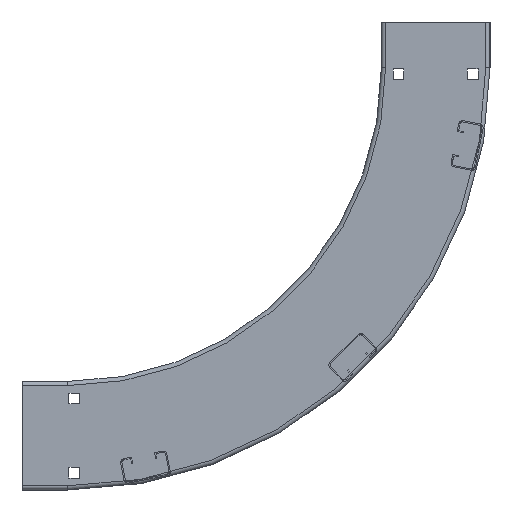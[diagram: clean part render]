
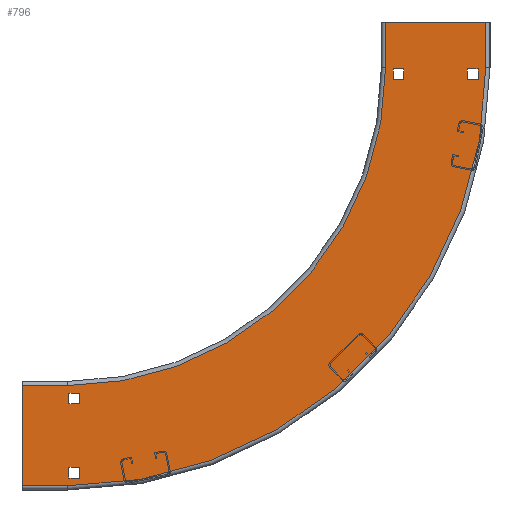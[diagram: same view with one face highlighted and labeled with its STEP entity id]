
A CAD part, left-side view. The second image highlights one B-rep face of the part: STEP entity #796.
In plain terms, the highlighted planar face has unit normal (-1, 0, 0).
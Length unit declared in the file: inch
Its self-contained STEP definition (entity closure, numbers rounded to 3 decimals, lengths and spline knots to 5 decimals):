
#1=DIRECTION('',(0.,0.,-1.));
#2=VECTOR('',#1,3.833);
#3=CARTESIAN_POINT('',(0.,-1.75,15.995));
#4=LINE('',#3,#2);
#5=DIRECTION('',(0.,1.,0.));
#6=VECTOR('',#5,3.833);
#7=CARTESIAN_POINT('',(0.,12.162,-1.75));
#8=LINE('',#7,#6);
#9=DIRECTION('',(0.,0.,-1.));
#10=VECTOR('',#9,0.41);
#11=CARTESIAN_POINT('',(0.,15.701,0.455));
#12=LINE('',#11,#10);
#13=DIRECTION('',(0.,-1.,0.));
#14=VECTOR('',#13,0.41);
#15=CARTESIAN_POINT('',(0.,15.701,0.045));
#16=LINE('',#15,#14);
#17=DIRECTION('',(0.,0.,1.));
#18=VECTOR('',#17,0.41);
#19=CARTESIAN_POINT('',(0.,15.291,0.045));
#20=LINE('',#19,#18);
#21=DIRECTION('',(0.,1.,0.));
#22=VECTOR('',#21,0.41);
#23=CARTESIAN_POINT('',(0.,15.291,0.455));
#24=LINE('',#23,#22);
#25=DIRECTION('',(0.,1.,0.));
#26=VECTOR('',#25,0.41);
#27=CARTESIAN_POINT('',(0.,12.456,0.455));
#28=LINE('',#27,#26);
#29=DIRECTION('',(0.,0.,-1.));
#30=VECTOR('',#29,0.41);
#31=CARTESIAN_POINT('',(0.,12.866,0.455));
#32=LINE('',#31,#30);
#33=DIRECTION('',(0.,-1.,0.));
#34=VECTOR('',#33,0.41);
#35=CARTESIAN_POINT('',(0.,12.866,0.045));
#36=LINE('',#35,#34);
#37=DIRECTION('',(0.,0.,1.));
#38=VECTOR('',#37,0.41);
#39=CARTESIAN_POINT('',(0.,12.456,0.045));
#40=LINE('',#39,#38);
#41=DIRECTION('',(0.,0.,-1.));
#42=VECTOR('',#41,0.41);
#43=CARTESIAN_POINT('',(0.,0.455,12.86361));
#44=LINE('',#43,#42);
#45=DIRECTION('',(0.,-1.,0.));
#46=VECTOR('',#45,0.41);
#47=CARTESIAN_POINT('',(0.,0.455,12.45361));
#48=LINE('',#47,#46);
#49=DIRECTION('',(0.,0.,1.));
#50=VECTOR('',#49,0.41);
#51=CARTESIAN_POINT('',(0.,0.045,12.45361));
#52=LINE('',#51,#50);
#53=DIRECTION('',(0.,1.,0.));
#54=VECTOR('',#53,0.41);
#55=CARTESIAN_POINT('',(0.,0.045,12.86361));
#56=LINE('',#55,#54);
#57=DIRECTION('',(0.,0.,1.));
#58=VECTOR('',#57,0.41);
#59=CARTESIAN_POINT('',(0.,0.045,15.28905));
#60=LINE('',#59,#58);
#61=DIRECTION('',(0.,1.,0.));
#62=VECTOR('',#61,0.41);
#63=CARTESIAN_POINT('',(0.,0.045,15.69905));
#64=LINE('',#63,#62);
#65=DIRECTION('',(0.,0.,-1.));
#66=VECTOR('',#65,0.41);
#67=CARTESIAN_POINT('',(0.,0.455,15.69905));
#68=LINE('',#67,#66);
#69=DIRECTION('',(0.,-1.,0.));
#70=VECTOR('',#69,0.41);
#71=CARTESIAN_POINT('',(0.,0.455,15.28905));
#72=LINE('',#71,#70);
#73=DIRECTION('',(0.,0.,1.));
#74=VECTOR('',#73,1.75);
#75=CARTESIAN_POINT('',(0.,15.995,-1.75));
#76=LINE('',#75,#74);
#114=DIRECTION('',(0.,0.,-1.));
#115=VECTOR('',#114,1.75);
#116=CARTESIAN_POINT('',(0.,12.162,0.));
#117=LINE('',#116,#115);
#123=CARTESIAN_POINT('',(0.,0.,0.));
#124=DIRECTION('',(-1.,0.,0.));
#125=DIRECTION('',(0.,0.,1.));
#126=AXIS2_PLACEMENT_3D('',#123,#124,#125);
#128=DIRECTION('',(0.,1.,0.));
#129=VECTOR('',#128,1.75);
#130=CARTESIAN_POINT('',(0.,-1.75,12.162));
#131=LINE('',#130,#129);
#169=DIRECTION('',(0.,-1.,0.));
#170=VECTOR('',#169,1.75);
#171=CARTESIAN_POINT('',(0.,0.,15.995));
#172=LINE('',#171,#170);
#178=CARTESIAN_POINT('',(0.,0.,0.));
#179=DIRECTION('',(1.,0.,0.));
#180=DIRECTION('',(0.,1.,0.));
#181=AXIS2_PLACEMENT_3D('',#178,#179,#180);
#573=CARTESIAN_POINT('',(0.,-1.75,12.162));
#575=VERTEX_POINT('',#573);
#579=CARTESIAN_POINT('',(0.,0.,12.162));
#581=VERTEX_POINT('',#579);
#585=CARTESIAN_POINT('',(0.,12.162,0.));
#587=VERTEX_POINT('',#585);
#591=CARTESIAN_POINT('',(0.,12.162,-1.75));
#593=VERTEX_POINT('',#591);
#621=CARTESIAN_POINT('',(0.,15.995,-1.75));
#622=VERTEX_POINT('',#621);
#623=CARTESIAN_POINT('',(0.,-1.75,15.995));
#624=VERTEX_POINT('',#623);
#629=CARTESIAN_POINT('',(0.,15.995,0.));
#631=VERTEX_POINT('',#629);
#635=CARTESIAN_POINT('',(0.,0.,15.995));
#637=VERTEX_POINT('',#635);
#669=CARTESIAN_POINT('',(0.,15.701,0.455));
#670=CARTESIAN_POINT('',(0.,15.701,0.045));
#671=VERTEX_POINT('',#669);
#672=VERTEX_POINT('',#670);
#673=CARTESIAN_POINT('',(0.,15.291,0.045));
#674=VERTEX_POINT('',#673);
#675=CARTESIAN_POINT('',(0.,15.291,0.455));
#676=VERTEX_POINT('',#675);
#677=CARTESIAN_POINT('',(0.,12.456,0.455));
#678=CARTESIAN_POINT('',(0.,12.866,0.455));
#679=VERTEX_POINT('',#677);
#680=VERTEX_POINT('',#678);
#681=CARTESIAN_POINT('',(0.,12.866,0.045));
#682=VERTEX_POINT('',#681);
#683=CARTESIAN_POINT('',(0.,12.456,0.045));
#684=VERTEX_POINT('',#683);
#701=CARTESIAN_POINT('',(0.,0.455,12.86361));
#702=CARTESIAN_POINT('',(0.,0.455,12.45361));
#703=VERTEX_POINT('',#701);
#704=VERTEX_POINT('',#702);
#705=CARTESIAN_POINT('',(0.,0.045,12.45361));
#706=VERTEX_POINT('',#705);
#707=CARTESIAN_POINT('',(0.,0.045,12.86361));
#708=VERTEX_POINT('',#707);
#709=CARTESIAN_POINT('',(0.,0.045,15.28905));
#710=CARTESIAN_POINT('',(0.,0.045,15.69905));
#711=VERTEX_POINT('',#709);
#712=VERTEX_POINT('',#710);
#713=CARTESIAN_POINT('',(0.,0.455,15.69905));
#714=VERTEX_POINT('',#713);
#715=CARTESIAN_POINT('',(0.,0.455,15.28905));
#716=VERTEX_POINT('',#715);
#733=CARTESIAN_POINT('',(0.,0.,0.));
#734=DIRECTION('',(1.,0.,0.));
#735=DIRECTION('',(0.,0.,-1.));
#736=AXIS2_PLACEMENT_3D('',#733,#734,#735);
#737=PLANE('',#736);
#739=ORIENTED_EDGE('',*,*,#738,.T.);
#741=ORIENTED_EDGE('',*,*,#740,.T.);
#743=ORIENTED_EDGE('',*,*,#742,.T.);
#745=ORIENTED_EDGE('',*,*,#744,.T.);
#747=ORIENTED_EDGE('',*,*,#746,.T.);
#749=ORIENTED_EDGE('',*,*,#748,.T.);
#751=ORIENTED_EDGE('',*,*,#750,.T.);
#753=ORIENTED_EDGE('',*,*,#752,.T.);
#754=EDGE_LOOP('',(#739,#741,#743,#745,#747,#749,#751,#753));
#755=FACE_OUTER_BOUND('',#754,.F.);
#757=ORIENTED_EDGE('',*,*,#756,.T.);
#759=ORIENTED_EDGE('',*,*,#758,.T.);
#761=ORIENTED_EDGE('',*,*,#760,.T.);
#763=ORIENTED_EDGE('',*,*,#762,.T.);
#764=EDGE_LOOP('',(#757,#759,#761,#763));
#765=FACE_BOUND('',#764,.F.);
#767=ORIENTED_EDGE('',*,*,#766,.T.);
#769=ORIENTED_EDGE('',*,*,#768,.T.);
#771=ORIENTED_EDGE('',*,*,#770,.T.);
#773=ORIENTED_EDGE('',*,*,#772,.T.);
#774=EDGE_LOOP('',(#767,#769,#771,#773));
#775=FACE_BOUND('',#774,.F.);
#777=ORIENTED_EDGE('',*,*,#776,.T.);
#779=ORIENTED_EDGE('',*,*,#778,.T.);
#781=ORIENTED_EDGE('',*,*,#780,.T.);
#783=ORIENTED_EDGE('',*,*,#782,.T.);
#784=EDGE_LOOP('',(#777,#779,#781,#783));
#785=FACE_BOUND('',#784,.F.);
#787=ORIENTED_EDGE('',*,*,#786,.T.);
#789=ORIENTED_EDGE('',*,*,#788,.T.);
#791=ORIENTED_EDGE('',*,*,#790,.T.);
#793=ORIENTED_EDGE('',*,*,#792,.T.);
#794=EDGE_LOOP('',(#787,#789,#791,#793));
#795=FACE_BOUND('',#794,.F.);
#796=ADVANCED_FACE('',(#755,#765,#775,#785,#795),#737,.F.);
#127=CIRCLE('',#126,12.162);
#182=CIRCLE('',#181,15.995);
#738=EDGE_CURVE('',#622,#631,#76,.T.);
#740=EDGE_CURVE('',#631,#637,#182,.T.);
#742=EDGE_CURVE('',#637,#624,#172,.T.);
#744=EDGE_CURVE('',#624,#575,#4,.T.);
#746=EDGE_CURVE('',#575,#581,#131,.T.);
#748=EDGE_CURVE('',#581,#587,#127,.T.);
#750=EDGE_CURVE('',#587,#593,#117,.T.);
#752=EDGE_CURVE('',#593,#622,#8,.T.);
#756=EDGE_CURVE('',#671,#672,#12,.T.);
#758=EDGE_CURVE('',#672,#674,#16,.T.);
#760=EDGE_CURVE('',#674,#676,#20,.T.);
#762=EDGE_CURVE('',#676,#671,#24,.T.);
#766=EDGE_CURVE('',#679,#680,#28,.T.);
#768=EDGE_CURVE('',#680,#682,#32,.T.);
#770=EDGE_CURVE('',#682,#684,#36,.T.);
#772=EDGE_CURVE('',#684,#679,#40,.T.);
#776=EDGE_CURVE('',#703,#704,#44,.T.);
#778=EDGE_CURVE('',#704,#706,#48,.T.);
#780=EDGE_CURVE('',#706,#708,#52,.T.);
#782=EDGE_CURVE('',#708,#703,#56,.T.);
#786=EDGE_CURVE('',#711,#712,#60,.T.);
#788=EDGE_CURVE('',#712,#714,#64,.T.);
#790=EDGE_CURVE('',#714,#716,#68,.T.);
#792=EDGE_CURVE('',#716,#711,#72,.T.);
